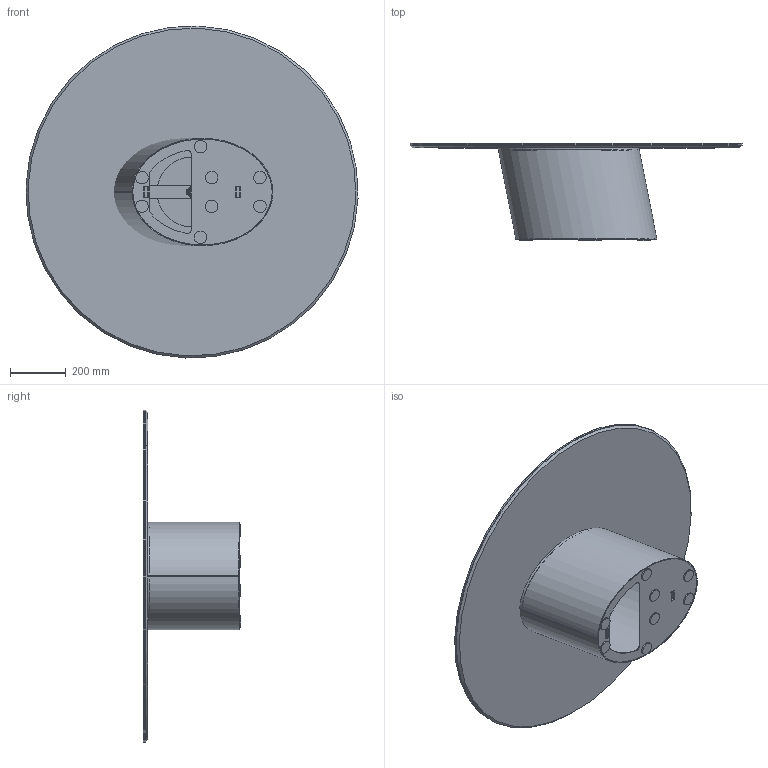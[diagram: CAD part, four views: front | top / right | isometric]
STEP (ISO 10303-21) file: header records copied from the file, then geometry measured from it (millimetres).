
FILE_DESCRIPTION (( 'STEP AP203' ), '1' );
FILE_NAME ('D114C.STEP', '2024-08-07T11:20:46', ( '' ), ( '' ), 'SwSTEP 2.0', 'SolidWorks 2022', '' );
FILE_SCHEMA (( 'CONFIG_CONTROL_DESIGN' ));
Length unit declared in the file: millimetre
Products named in the file (8): M8xXXmm_M8x16mm; P0000003-00-STAFFA DI FISSAGGIO DIAMETRO 250_P0000003-250mm normale; K1XCMXX-00-Piani Rotondi in ceramica_D.1190; P0000005-00-FILETTO M24 CON FORO H.20mm; Parte matrice basamento DORADO LOW H350_Default<A macchina>; KXXCXX-00-Piani Rotondi in ceramica CON PIASTRA_K14P PIANO CERAMICA D.119cm CON M24; D114C; Parte2^Dxxxx-00-DORADO LOW
Assembly tree (14 placements, depth 3):
  D114C
    Parte matrice basamento DORADO LOW H350_Default<A macchina>
    Parte2^Dxxxx-00-DORADO LOW  x8
    KXXCXX-00-Piani Rotondi in ceramica CON PIASTRA_K14P PIANO CERAMICA D.119cm CON M24
      K1XCMXX-00-Piani Rotondi in ceramica_D.1190
      P0000003-00-STAFFA DI FISSAGGIO DIAMETRO 250_P0000003-250mm normale
      M8xXXmm_M8x16mm
      P0000005-00-FILETTO M24 CON FORO H.20mm
Bounding box: 1189.16 x 349 x 1189.16 mm (x, y, z)
Volume: 19913390.2 mm3; surface area: 6056234.2 mm2
Topology: 20 solids, 20 shells, 246 faces, 593 edges, 386 vertices
Faces by surface type: cylinder 102, plane 102, cone 21, bspline 17, torus 4
Entity records: 12827 total; most frequent: CARTESIAN_POINT 6645, ORIENTED_EDGE 1098, DIRECTION 1038, EDGE_CURVE 549, AXIS2_PLACEMENT_3D 389, VERTEX_POINT 358, LINE 260, VECTOR 260
